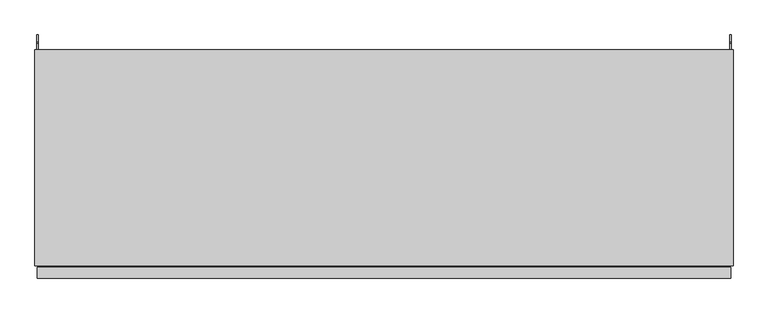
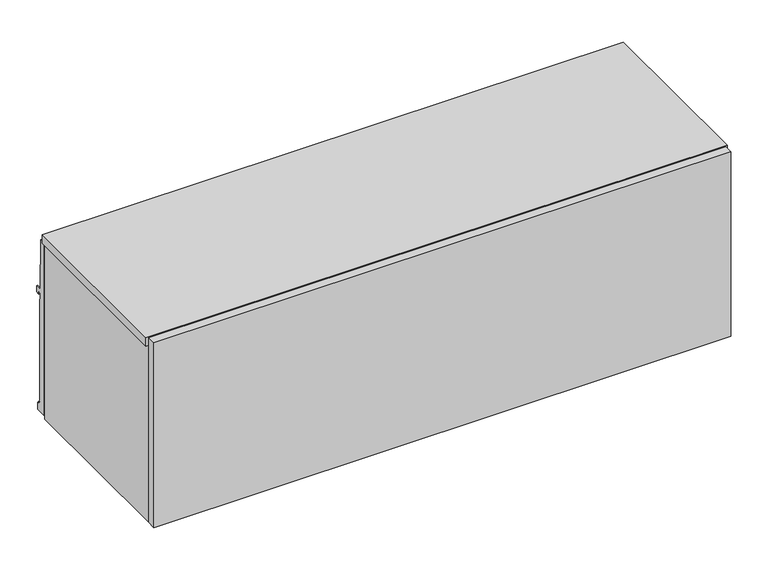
"""IFC4 building model written with IfcOpenShell, lengths in millimetres: furniture geometry, Steelcase - Universal Storage - Over the Case Bin - Flat Front : For Montage - 48W."""

from ifc_helpers import new_model, si_unit, frame, origin, place, context, project, spatial, polyline, outline, extrude, source, transform, mapped, element, save


def furniture_04543e97(model_context):
    return source(origin(), model_context, "Body", "SweptSolid", [
        extrude(outline(polyline([(4.4448587, -379.476), (1214.7703, -379.476), (1214.7703, -398.526), (4.4448587, -398.526), (4.4448587, -379.476)])), frame((0.0, 0.0, 1266.8226746), z_axis=(0.0, 0.0, 1.0), x_axis=(1.0, 0.0, 0.0)), (0.0, 0.0, 1.0), 409.5773254),
        extrude(outline(polyline([(0.0, 1657.096), (10.1677703, 1657.096), (13.3857995, 1545.8185744), (26.0095997, 1545.8185744), (26.0095997, 1532.1025512), (17.5768, 1532.1025512), (17.5768, 1537.1064608), (13.3349998, 1537.1064608), (13.3349998, 1522.6538546), (14.2747998, 1522.6538546), (14.2747998, 1296.0858527), (17.2466001, 1296.0858527), (17.2466001, 1289.7358043), (22.5806007, 1289.7358043), (22.5806007, 1274.2164027), (0.0, 1274.2164027), (0.0, 1657.096)])), frame((1213.6882, 0.0, 0.0), z_axis=(1.0, 0.0, 0.0), x_axis=(0.0, 1.0, 0.0)), (0.0, 0.0, 1.0), 1.905),
        extrude(outline(polyline([(1219.2, -377.213238), (0.0, -377.213238), (0.0, 0.0), (1219.2, 0.0), (1219.2, -377.213238)])), frame((0.0, 0.0, 1657.35), z_axis=(0.0, 0.0, 1.0), x_axis=(1.0, 0.0, 0.0)), (0.0, 0.0, 1.0), 19.05),
        extrude(outline(polyline([(15.875, -377.213238), (5.5118, -377.213238), (5.5118, 0.0), (15.875, 0.0), (15.875, -377.213238)])), frame((0.0, 0.0, 1265.428), z_axis=(0.0, 0.0, 1.0), x_axis=(1.0, 0.0, 0.0)), (0.0, 0.0, 1.0), 391.6679457),
        extrude(outline(polyline([(1218.0568665, -377.213238), (1203.325, -377.213238), (1203.325, 0.0), (1218.0568665, 0.0), (1218.0568665, -377.213238)])), frame((0.0, 0.0, 1265.428), z_axis=(0.0, 0.0, 1.0), x_axis=(1.0, 0.0, 0.0)), (0.0, 0.0, 1.0), 391.6679457),
        extrude(outline(polyline([(0.0, 1657.096), (10.1677703, 1657.096), (13.3857995, 1545.8185744), (26.0095997, 1545.8185744), (26.0095997, 1532.1025512), (17.5768, 1532.1025512), (17.5768, 1537.1064608), (13.3349998, 1537.1064608), (13.3349998, 1522.6538546), (14.2747998, 1522.6538546), (14.2747998, 1296.0858527), (17.2466001, 1296.0858527), (17.2466001, 1289.7358043), (22.5806007, 1289.7358043), (22.5806007, 1274.2164027), (0.0, 1274.2164027), (0.0, 1657.096)])), frame((3.6068, 0.0, 0.0), z_axis=(1.0, 0.0, 0.0), x_axis=(0.0, 1.0, 0.0)), (0.0, 0.0, 1.0), 1.905),
        extrude(outline(polyline([(-35.4584098, 1372.819257), (-27.0763996, 1372.819257), (-27.0763996, 1360.1191601), (-33.4264117, 1360.1191601), (-33.4264117, 1323.1622589), (-27.0763996, 1323.1622589), (-27.0763996, 1265.428), (-35.4584098, 1265.428), (-35.4584098, 1293.054213), (-46.1263996, 1293.054213), (-46.1263996, 1268.1875622), (-59.9694137, 1268.1875622), (-59.9694137, 1294.8575912), (-332.8542818, 1294.8575912), (-332.8542818, 1268.1875622), (-377.3042823, 1268.1875622), (-377.3042823, 1310.7072052), (-35.4584098, 1310.7072052), (-35.4584098, 1372.819257)])), frame((15.875, 0.0, 0.0), z_axis=(1.0, 0.0, 0.0), x_axis=(0.0, 1.0, 0.0)), (0.0, 0.0, 1.0), 1187.45),
    ])


if __name__ == "__main__":
    model = new_model("IFC4")
    model_context = context("Model", 3, world=origin())
    ifc_project = project(units=[si_unit("LENGTHUNIT", "METRE", prefix="MILLI")], contexts=[model_context])
    site = spatial("IfcSite", under=ifc_project)
    building = spatial("IfcBuilding", under=site)
    placement = place(None, origin())
    furniture_shape = furniture_04543e97(model_context)
    element("IfcFurniture", 1, ObjectType="Steelcase - Universal Storage - Over the Case Bin - Flat Front : For Montage - 48W", at=placement, inside=building, context=model_context, shape_type="MappedRepresentation", body=[
        mapped(furniture_shape, transform((0.0, 0.0, 0.0), x_axis=(1.0, 0.0, 0.0), y_axis=(0.0, 1.0, 0.0), z_axis=(0.0, 0.0, 1.0))),
    ])
    save(model, "model.ifc")
